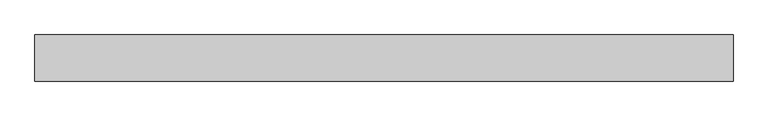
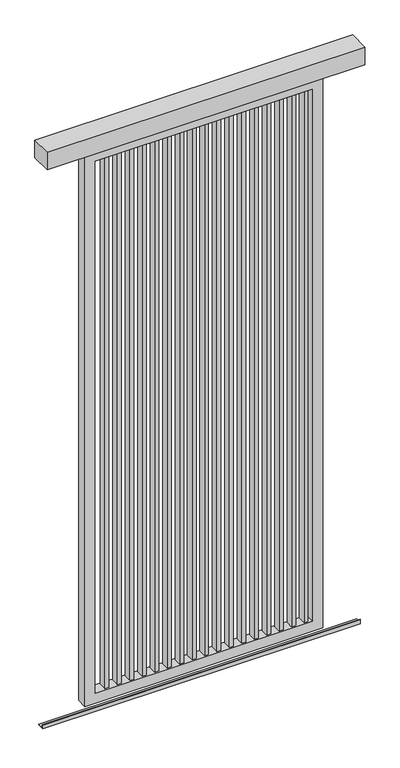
"""IFC4 building model written with IfcOpenShell, lengths in millimetres: proxy geometry, Renson_Amani_Loggia_Linea_Sliding : Renson_Amani_Loggia_Linea_Sliding."""

from ifc_helpers import new_model, si_unit, frame, origin, place, context, project, spatial, polyline, outline, extrude, source, transform, mapped, element, save


def generic_models_e979cb0a(model_context):
    return source(origin(), model_context, "Body", "SweptSolid", [
        extrude(outline(polyline([(396.5, 15.0), (396.5, -15.0), (381.5, -15.0), (381.5, 15.0), (396.5, 15.0)])), frame((0.0, 0.0, 85.0), z_axis=(0.0, 0.0, 1.0), x_axis=(1.0, 0.0, 0.0)), (0.0, 0.0, 1.0), 2125.0),
        extrude(outline(polyline([(349.5, 15.0), (349.5, -15.0), (334.5, -15.0), (334.5, 15.0), (349.5, 15.0)])), frame((0.0, 0.0, 85.0), z_axis=(0.0, 0.0, 1.0), x_axis=(1.0, 0.0, 0.0)), (0.0, 0.0, 1.0), 2125.0),
        extrude(outline(polyline([(302.5, 15.0), (302.5, -15.0), (287.5, -15.0), (287.5, 15.0), (302.5, 15.0)])), frame((0.0, 0.0, 85.0), z_axis=(0.0, 0.0, 1.0), x_axis=(1.0, 0.0, 0.0)), (0.0, 0.0, 1.0), 2125.0),
        extrude(outline(polyline([(255.5, 15.0), (255.5, -15.0), (240.5, -15.0), (240.5, 15.0), (255.5, 15.0)])), frame((0.0, 0.0, 85.0), z_axis=(0.0, 0.0, 1.0), x_axis=(1.0, 0.0, 0.0)), (0.0, 0.0, 1.0), 2125.0),
        extrude(outline(polyline([(208.5, 15.0), (208.5, -15.0), (193.5, -15.0), (193.5, 15.0), (208.5, 15.0)])), frame((0.0, 0.0, 85.0), z_axis=(0.0, 0.0, 1.0), x_axis=(1.0, 0.0, 0.0)), (0.0, 0.0, 1.0), 2125.0),
        extrude(outline(polyline([(161.5, 15.0), (161.5, -15.0), (146.5, -15.0), (146.5, 15.0), (161.5, 15.0)])), frame((0.0, 0.0, 85.0), z_axis=(0.0, 0.0, 1.0), x_axis=(1.0, 0.0, 0.0)), (0.0, 0.0, 1.0), 2125.0),
        extrude(outline(polyline([(114.5, 15.0), (114.5, -15.0), (99.5, -15.0), (99.5, 15.0), (114.5, 15.0)])), frame((0.0, 0.0, 85.0), z_axis=(0.0, 0.0, 1.0), x_axis=(1.0, 0.0, 0.0)), (0.0, 0.0, 1.0), 2125.0),
        extrude(outline(polyline([(67.5, 15.0), (67.5, -15.0), (52.5, -15.0), (52.5, 15.0), (67.5, 15.0)])), frame((0.0, 0.0, 85.0), z_axis=(0.0, 0.0, 1.0), x_axis=(1.0, 0.0, 0.0)), (0.0, 0.0, 1.0), 2125.0),
        extrude(outline(polyline([(20.5, 15.0), (20.5, -15.0), (5.5, -15.0), (5.5, 15.0), (20.5, 15.0)])), frame((0.0, 0.0, 85.0), z_axis=(0.0, 0.0, 1.0), x_axis=(1.0, 0.0, 0.0)), (0.0, 0.0, 1.0), 2125.0),
        extrude(outline(polyline([(-26.5, 15.0), (-26.5, -15.0), (-41.5, -15.0), (-41.5, 15.0), (-26.5, 15.0)])), frame((0.0, 0.0, 85.0), z_axis=(0.0, 0.0, 1.0), x_axis=(1.0, 0.0, 0.0)), (0.0, 0.0, 1.0), 2125.0),
        extrude(outline(polyline([(-73.5, 15.0), (-73.5, -15.0), (-88.5, -15.0), (-88.5, 15.0), (-73.5, 15.0)])), frame((0.0, 0.0, 85.0), z_axis=(0.0, 0.0, 1.0), x_axis=(1.0, 0.0, 0.0)), (0.0, 0.0, 1.0), 2125.0),
        extrude(outline(polyline([(-120.5, 15.0), (-120.5, -15.0), (-135.5, -15.0), (-135.5, 15.0), (-120.5, 15.0)])), frame((0.0, 0.0, 85.0), z_axis=(0.0, 0.0, 1.0), x_axis=(1.0, 0.0, 0.0)), (0.0, 0.0, 1.0), 2125.0),
        extrude(outline(polyline([(-167.5, 15.0), (-167.5, -15.0), (-182.5, -15.0), (-182.5, 15.0), (-167.5, 15.0)])), frame((0.0, 0.0, 85.0), z_axis=(0.0, 0.0, 1.0), x_axis=(1.0, 0.0, 0.0)), (0.0, 0.0, 1.0), 2125.0),
        extrude(outline(polyline([(-214.5, 15.0), (-214.5, -15.0), (-229.5, -15.0), (-229.5, 15.0), (-214.5, 15.0)])), frame((0.0, 0.0, 85.0), z_axis=(0.0, 0.0, 1.0), x_axis=(1.0, 0.0, 0.0)), (0.0, 0.0, 1.0), 2125.0),
        extrude(outline(polyline([(-261.5, 15.0), (-261.5, -15.0), (-276.5, -15.0), (-276.5, 15.0), (-261.5, 15.0)])), frame((0.0, 0.0, 85.0), z_axis=(0.0, 0.0, 1.0), x_axis=(1.0, 0.0, 0.0)), (0.0, 0.0, 1.0), 2125.0),
        extrude(outline(polyline([(-308.5, 15.0), (-308.5, -15.0), (-323.5, -15.0), (-323.5, 15.0), (-308.5, 15.0)])), frame((0.0, 0.0, 85.0), z_axis=(0.0, 0.0, 1.0), x_axis=(1.0, 0.0, 0.0)), (0.0, 0.0, 1.0), 2125.0),
        extrude(outline(polyline([(-355.5, 15.0), (-355.5, -15.0), (-370.5, -15.0), (-370.5, 15.0), (-355.5, 15.0)])), frame((0.0, 0.0, 85.0), z_axis=(0.0, 0.0, 1.0), x_axis=(1.0, 0.0, 0.0)), (0.0, 0.0, 1.0), 2125.0),
        extrude(outline(polyline([(-6.0, 15.0), (-3.0, 15.0), (-3.0, 3.0), (20.0, 3.0), (20.0, 0.0), (-6.0, 0.0), (-6.0, 15.0)])), frame((-600.0, 0.0, 0.0), z_axis=(1.0, 0.0, 0.0), x_axis=(0.0, 1.0, 0.0)), (0.0, 0.0, 1.0), 1200.0),
        extrude(outline(polyline([(600.0, 46.0), (600.0, -34.0), (-600.0, -34.0), (-600.0, 46.0), (600.0, 46.0)])), frame((0.0, 0.0, 2250.0), z_axis=(0.0, 0.0, 1.0), x_axis=(1.0, 0.0, 0.0)), (0.0, 0.0, 1.0), 70.0),
        extrude(outline(polyline([(2250.0, -450.0), (45.0, -450.0), (45.0, 450.0), (2250.0, 450.0), (2250.0, -450.0)]), holes=[polyline([(2210.0, 410.0), (85.0, 410.0), (85.0, -410.0), (2210.0, -410.0), (2210.0, 410.0)])]), frame((0.0, -20.0, 0.0), z_axis=(0.0, 1.0, 0.0), x_axis=(0.0, 0.0, 1.0)), (0.0, 0.0, 1.0), 40.0),
    ])


if __name__ == "__main__":
    model = new_model("IFC4")
    model_context = context("Model", 3, world=origin())
    ifc_project = project(units=[si_unit("LENGTHUNIT", "METRE", prefix="MILLI")], contexts=[model_context])
    site = spatial("IfcSite", under=ifc_project)
    building = spatial("IfcBuilding", under=site)
    placement = place(None, origin())
    generic_models_shape = generic_models_e979cb0a(model_context)
    element("IfcBuildingElementProxy", 1, Name="Renson_Amani_Loggia_Linea_Sliding : Renson_Amani_Loggia_Linea_Sliding", ObjectType="Renson_Amani_Loggia_Linea_Sliding : Renson_Amani_Loggia_Linea_Sliding", at=placement, inside=building, context=model_context, shape_type="MappedRepresentation", body=[
        mapped(generic_models_shape, transform((0.0, 0.0, 0.0), x_axis=(1.0, 0.0, 0.0), y_axis=(0.0, 1.0, 0.0), z_axis=(0.0, 0.0, 1.0))),
    ])
    save(model, "model.ifc")
